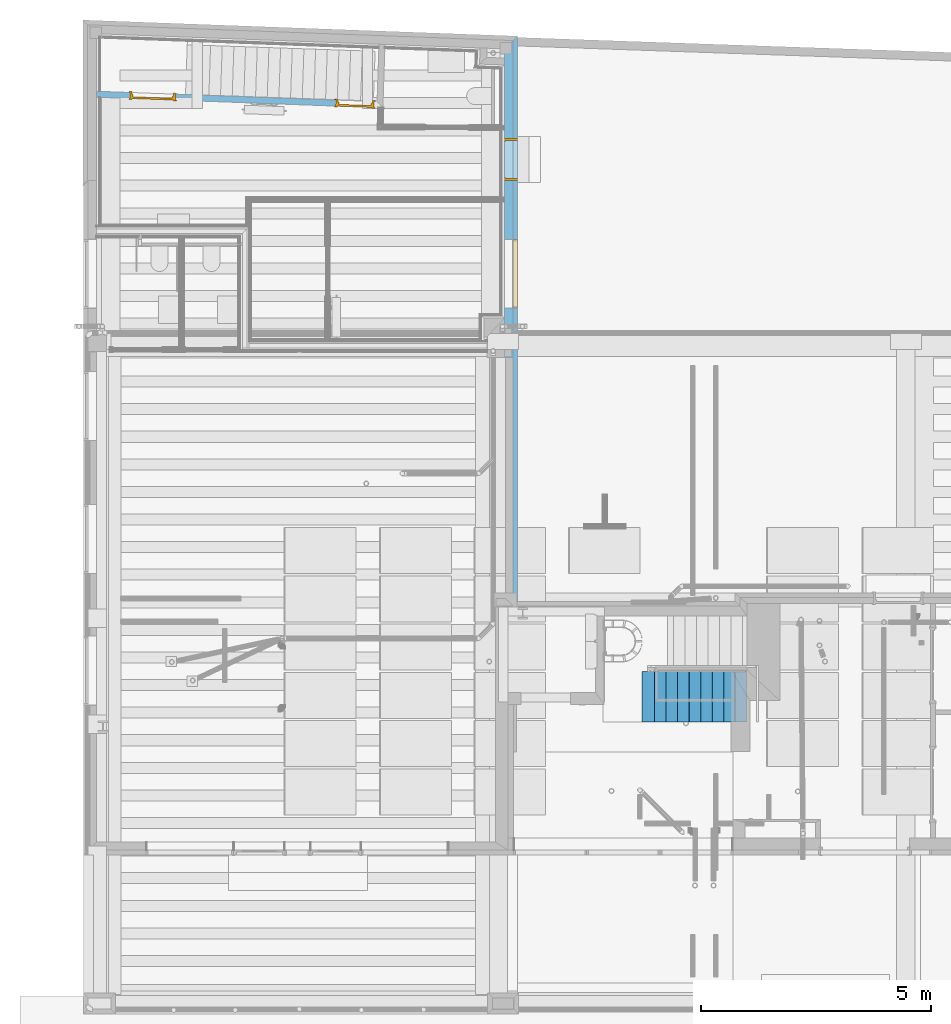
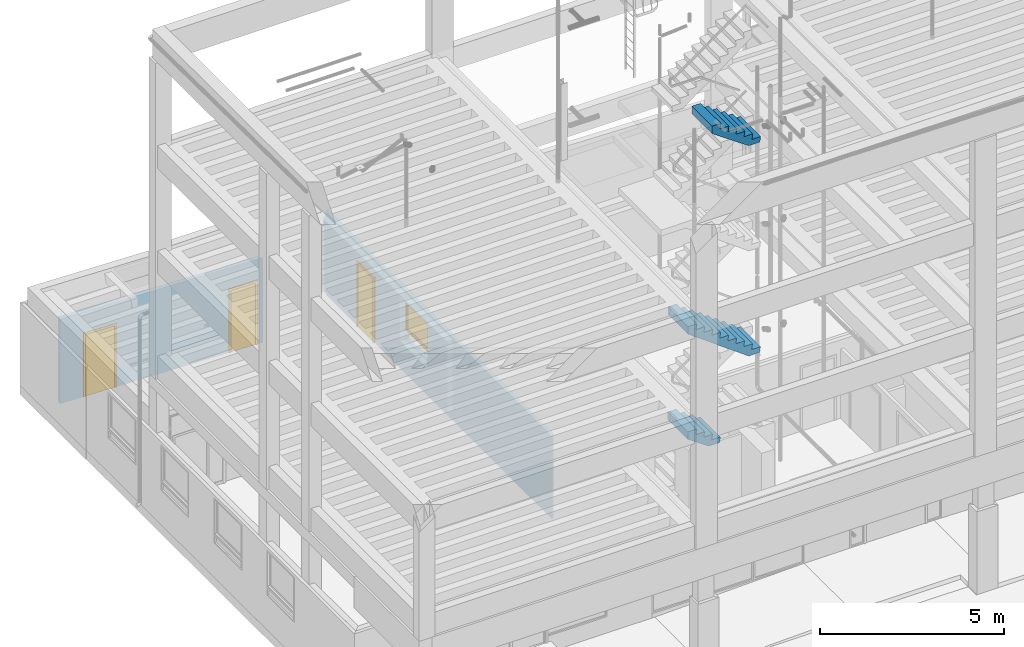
# One storey, part 24 of 108: 3 doors, 3 stairs, 1 window, 6 openings, plus 3 elements that do not belong to this part.
"""IFC2X3 building model written with IfcOpenShell, lengths in metres."""

from ifc_helpers import new_model, entity, si_unit, converted_unit, derived_unit, money_unit, direction, frame, frame_2d, origin_with_axes, place, context, subcontext, project, spatial, polyline, rectangle, outline, extrude, faceted_brep, material, layer, layer_set, layer_usage, type_object, element, fill, save


model = new_model("IFC2X3")

# Units and contexts
model_context = context("Model", 3, precision=1e-05, world=origin_with_axes(), true_north=direction((0.0, 1.0)))
body_context = subcontext(model_context, "Body", "Model", "MODEL_VIEW", scale=1.0)
ifc_project = project(units=[si_unit("LENGTHUNIT", "METRE"), si_unit("AREAUNIT", "SQUARE_METRE"), si_unit("VOLUMEUNIT", "CUBIC_METRE"), si_unit("ABSORBEDDOSEUNIT", "GRAY"), si_unit("AMOUNTOFSUBSTANCEUNIT", "MOLE"), si_unit("DOSEEQUIVALENTUNIT", "SIEVERT"), si_unit("ELECTRICCAPACITANCEUNIT", "FARAD"), si_unit("ELECTRICCHARGEUNIT", "COULOMB"), si_unit("ELECTRICCONDUCTANCEUNIT", "SIEMENS"), si_unit("ELECTRICCURRENTUNIT", "AMPERE"), si_unit("ELECTRICRESISTANCEUNIT", "OHM"), si_unit("ELECTRICVOLTAGEUNIT", "VOLT"), si_unit("ENERGYUNIT", "JOULE"), si_unit("FORCEUNIT", "NEWTON"), si_unit("FREQUENCYUNIT", "HERTZ"), si_unit("ILLUMINANCEUNIT", "LUX"), si_unit("INDUCTANCEUNIT", "HENRY"), si_unit("LUMINOUSFLUXUNIT", "LUMEN"), si_unit("LUMINOUSINTENSITYUNIT", "CANDELA"), si_unit("MAGNETICFLUXDENSITYUNIT", "TESLA"), si_unit("MAGNETICFLUXUNIT", "WEBER"), si_unit("MASSUNIT", "GRAM"), converted_unit("PLANEANGLEUNIT", "degree", entity("IfcReal", 0.0174532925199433), si_unit("PLANEANGLEUNIT", "RADIAN"), dimensions=[0, 0, 0, 0, 0, 0, 0]), si_unit("POWERUNIT", "WATT"), si_unit("PRESSUREUNIT", "PASCAL"), si_unit("RADIOACTIVITYUNIT", "BECQUEREL"), si_unit("SOLIDANGLEUNIT", "STERADIAN"), si_unit("THERMODYNAMICTEMPERATUREUNIT", "KELVIN"), si_unit("TIMEUNIT", "SECOND"), derived_unit("ACCELERATIONUNIT", [(si_unit("LENGTHUNIT", "METRE"), 1), (si_unit("TIMEUNIT", "SECOND"), -2)]), derived_unit("ANGULARVELOCITYUNIT", [(converted_unit("PLANEANGLEUNIT", "degree", entity("IfcReal", 0.0174532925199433), si_unit("PLANEANGLEUNIT", "RADIAN"), dimensions=[0, 0, 0, 0, 0, 0, 0]), 1), (si_unit("TIMEUNIT", "SECOND"), -1)]), derived_unit("CURVATUREUNIT", [(converted_unit("PLANEANGLEUNIT", "degree", entity("IfcReal", 0.0174532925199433), si_unit("PLANEANGLEUNIT", "RADIAN"), dimensions=[0, 0, 0, 0, 0, 0, 0]), 1), (si_unit("LENGTHUNIT", "METRE"), -1)]), derived_unit("DYNAMICVISCOSITYUNIT", [(si_unit("PRESSUREUNIT", "PASCAL"), 1), (si_unit("TIMEUNIT", "SECOND"), 1)]), derived_unit("HEATFLUXDENSITYUNIT", [(si_unit("POWERUNIT", "WATT"), 1), (si_unit("LENGTHUNIT", "METRE"), -2)]), derived_unit("HEATINGVALUEUNIT", [(si_unit("ENERGYUNIT", "JOULE"), 1), (si_unit("MASSUNIT", "GRAM"), -1)]), derived_unit("INTEGERCOUNTRATEUNIT", [(si_unit("TIMEUNIT", "SECOND"), -1)]), derived_unit("IONCONCENTRATIONUNIT", [(si_unit("MASSUNIT", "GRAM"), 1), (si_unit("VOLUMEUNIT", "CUBIC_METRE"), -1)]), derived_unit("ISOTHERMALMOISTURECAPACITYUNIT", [(si_unit("VOLUMEUNIT", "CUBIC_METRE"), 1), (si_unit("MASSUNIT", "GRAM"), -1)]), derived_unit("KINEMATICVISCOSITYUNIT", [(si_unit("AREAUNIT", "SQUARE_METRE"), 1), (si_unit("TIMEUNIT", "SECOND"), -1)]), derived_unit("LINEARFORCEUNIT", [(si_unit("FORCEUNIT", "NEWTON"), 1), (si_unit("LENGTHUNIT", "METRE"), -1)]), derived_unit("LINEARMOMENTUNIT", [(si_unit("FORCEUNIT", "NEWTON"), 1), (si_unit("LENGTHUNIT", "METRE"), -1)]), derived_unit("LINEARSTIFFNESSUNIT", [(si_unit("FORCEUNIT", "NEWTON"), 1), (si_unit("LENGTHUNIT", "METRE"), -1)]), derived_unit("LINEARVELOCITYUNIT", [(si_unit("LENGTHUNIT", "METRE"), 1), (si_unit("TIMEUNIT", "SECOND"), -1)]), derived_unit("LUMINOUSINTENSITYDISTRIBUTIONUNIT", [(si_unit("LUMINOUSINTENSITYUNIT", "CANDELA"), 1), (si_unit("LUMINOUSFLUXUNIT", "LUMEN"), -1)]), derived_unit("MASSDENSITYUNIT", [(si_unit("MASSUNIT", "GRAM"), 1), (si_unit("VOLUMEUNIT", "CUBIC_METRE"), -1)]), derived_unit("MASSFLOWRATEUNIT", [(si_unit("MASSUNIT", "GRAM"), 1), (si_unit("TIMEUNIT", "SECOND"), -1)]), derived_unit("MASSPERLENGTHUNIT", [(si_unit("MASSUNIT", "GRAM"), 1), (si_unit("LENGTHUNIT", "METRE"), -1)]), derived_unit("MODULUSOFELASTICITYUNIT", [(si_unit("FORCEUNIT", "NEWTON"), 1), (si_unit("AREAUNIT", "SQUARE_METRE"), -1)]), derived_unit("MODULUSOFLINEARSUBGRADEREACTIONUNIT", [(si_unit("FORCEUNIT", "NEWTON"), 1), (si_unit("LENGTHUNIT", "METRE"), -2)]), derived_unit("MODULUSOFROTATIONALSUBGRADEREACTIONUNIT", [(si_unit("FORCEUNIT", "NEWTON"), 1), (si_unit("LENGTHUNIT", "METRE"), 1)]), derived_unit("MODULUSOFSUBGRADEREACTIONUNIT", [(si_unit("FORCEUNIT", "NEWTON"), 1), (si_unit("VOLUMEUNIT", "CUBIC_METRE"), -1)]), derived_unit("MOISTUREDIFFUSIVITYUNIT", [(si_unit("VOLUMEUNIT", "CUBIC_METRE"), 1), (si_unit("TIMEUNIT", "SECOND"), -1)]), derived_unit("MOLECULARWEIGHTUNIT", [(si_unit("MASSUNIT", "GRAM"), 1), (si_unit("AMOUNTOFSUBSTANCEUNIT", "MOLE"), -1)]), derived_unit("PLANARFORCEUNIT", [(si_unit("FORCEUNIT", "NEWTON"), 1), (si_unit("LENGTHUNIT", "METRE"), -2)]), derived_unit("ROTATIONALFREQUENCYUNIT", [(si_unit("TIMEUNIT", "SECOND"), -1)]), derived_unit("ROTATIONALMASSUNIT", [(si_unit("MASSUNIT", "GRAM"), 1), (si_unit("LENGTHUNIT", "METRE"), 2)]), derived_unit("ROTATIONALSTIFFNESSUNIT", [(si_unit("FORCEUNIT", "NEWTON"), 1), (si_unit("LENGTHUNIT", "METRE"), 1), (converted_unit("PLANEANGLEUNIT", "degree", entity("IfcReal", 0.0174532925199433), si_unit("PLANEANGLEUNIT", "RADIAN"), dimensions=[0, 0, 0, 0, 0, 0, 0]), -1)]), derived_unit("SECTIONAREAINTEGRALUNIT", [(si_unit("LENGTHUNIT", "METRE"), 5)]), derived_unit("SECTIONMODULUSUNIT", [(si_unit("LENGTHUNIT", "METRE"), 3)]), derived_unit("SHEARMODULUSUNIT", [(si_unit("FORCEUNIT", "NEWTON"), 1), (si_unit("AREAUNIT", "SQUARE_METRE"), -1)]), derived_unit("SOUNDPOWERUNIT", [(si_unit("ENERGYUNIT", "JOULE"), 1), (si_unit("TIMEUNIT", "SECOND"), -1)]), derived_unit("SPECIFICHEATCAPACITYUNIT", [(si_unit("FORCEUNIT", "NEWTON"), 1), (si_unit("MASSUNIT", "GRAM"), -1), (si_unit("THERMODYNAMICTEMPERATUREUNIT", "KELVIN"), -1)]), derived_unit("TEMPERATUREGRADIENTUNIT", [(si_unit("THERMODYNAMICTEMPERATUREUNIT", "KELVIN"), 1), (si_unit("LENGTHUNIT", "METRE"), -1)]), derived_unit("THERMALADMITTANCEUNIT", [(si_unit("POWERUNIT", "WATT"), 1), (si_unit("AREAUNIT", "SQUARE_METRE"), -1), (si_unit("THERMODYNAMICTEMPERATUREUNIT", "KELVIN"), -1)]), derived_unit("THERMALCONDUCTANCEUNIT", [(si_unit("POWERUNIT", "WATT"), 1), (si_unit("LENGTHUNIT", "METRE"), -1), (si_unit("THERMODYNAMICTEMPERATUREUNIT", "KELVIN"), -1)]), derived_unit("THERMALEXPANSIONCOEFFICIENTUNIT", [(si_unit("THERMODYNAMICTEMPERATUREUNIT", "KELVIN"), -1)]), derived_unit("THERMALRESISTANCEUNIT", [(si_unit("AREAUNIT", "SQUARE_METRE"), 1), (si_unit("POWERUNIT", "WATT"), -1)]), derived_unit("THERMALTRANSMITTANCEUNIT", [(si_unit("POWERUNIT", "WATT"), 1), (si_unit("AREAUNIT", "SQUARE_METRE"), -1), (si_unit("THERMODYNAMICTEMPERATUREUNIT", "KELVIN"), -1)]), derived_unit("TORQUEUNIT", [(si_unit("FORCEUNIT", "NEWTON"), 1), (si_unit("LENGTHUNIT", "METRE"), 1)]), derived_unit("VAPORPERMEABILITYUNIT", [(si_unit("MASSUNIT", "GRAM"), 1), (si_unit("TIMEUNIT", "SECOND"), -1)]), derived_unit("VOLUMETRICFLOWRATEUNIT", [(si_unit("VOLUMEUNIT", "CUBIC_METRE"), 1), (si_unit("TIMEUNIT", "SECOND"), -1)]), derived_unit("WARPINGCONSTANTUNIT", [(si_unit("LENGTHUNIT", "METRE"), 6)]), derived_unit("WARPINGMOMENTUNIT", [(si_unit("FORCEUNIT", "NEWTON"), 1), (si_unit("LENGTHUNIT", "METRE"), 2)]), money_unit("GBP")], contexts=[model_context])

# Site, building, storey
site_placement = place(None, origin_with_axes())
site = spatial("IfcSite", under=ifc_project, at=site_placement, Name="Site", CompositionType="ELEMENT")
building_placement = place(site_placement, origin_with_axes())
building = spatial("IfcBuilding", under=site, at=building_placement, Name="Building01", CompositionType="ELEMENT")
storey_placement = place(building_placement, origin_with_axes())
storey = spatial("IfcBuildingStorey", under=building, at=storey_placement, Name="GF", CompositionType="ELEMENT", Elevation=0.0)

# Wall, openings
ifc_material_1 = material(Name="A_BSUK_WallsExternal_Brick")
ifc_layer_1 = layer(ifc_material_1, 0.1, ventilated=False)
ifc_layer_set_1 = layer_set([ifc_layer_1])
ifc_layer_usage_1 = layer_usage(ifc_layer_set_1, "AXIS2", "POSITIVE", 0.0)
wall_type_1 = type_object("IfcWallType", Name="A-Walls-ExternalBrick", PredefinedType="NOTDEFINED")
wall_1_placement = place(storey_placement, frame((9.443038, 8.971523, -0.16), z_axis=(0.0, 0.0, 1.0), x_axis=(3.756e-05, 1.0, 0.0)))
wall_1 = element("IfcWallStandardCase", 1, at=wall_1_placement, inside=storey, type_object=wall_type_1, material=ifc_layer_usage_1, Name="A-Walls-ExternalBrick", ObjectType="A-Walls-ExternalBrick", context=body_context, shape_type="SweptSolid", body=[
    extrude(outline(polyline([(12.194522, 0.1), (-0.1, 0.1), (0.0, 0.0), (12.290885, 0.0), (12.194522, 0.1)])), origin_with_axes(), (0.0, 0.0, 1.0), 2.76),
])
opening_1_placement = place(wall_1_placement, frame((9.152581, 0.0, 0.358), z_axis=(0.0, 0.0, 1.0), x_axis=(1.0, 0.0, 0.0)))
element("IfcOpeningElement", 2, at=opening_1_placement, cuts=wall_1, Name="Opening", ObjectType="Opening", context=body_context, shape_type="Brep", body=[
    faceted_brep([(0.0, 0.1, 0.0), (0.0, 0.1, 2.142), (0.909, 0.1, 2.142), (0.909, 0.1, 0.0), (4e-06, 0.0, 2.142), (4e-06, 0.0, 0.0), (0.909004, 0.0, 2.142), (0.909004, 0.0, 0.0)], [[[0, 1, 2, 3]], [[4, 1, 0, 5]], [[6, 2, 1, 4]], [[7, 3, 2, 6]], [[5, 0, 3, 7]], [[4, 5, 7, 6]]]),
])
opening_2_placement = place(wall_1_placement, frame((6.373286, 0.0, 1.158), z_axis=(0.0, 0.0, 1.0), x_axis=(1.0, 0.0, 0.0)))
opening_2 = element("IfcOpeningElement", 3, at=opening_2_placement, cuts=wall_1, Name="Opening", ObjectType="Opening", context=body_context, shape_type="Brep", body=[
    faceted_brep([(0.0, 0.1, 1.5), (1.5, 0.1, 1.5), (1.5, 0.1, 0.0), (0.0, 0.1, 0.0), (1.500004, 0.0, 1.5), (4e-06, 0.0, 1.5), (1.500004, 0.0, 0.0), (4e-06, 0.0, 0.0)], [[[0, 1, 2, 3]], [[4, 1, 0, 5]], [[6, 2, 1, 4]], [[5, 0, 3, 7]], [[4, 5, 7, 6]], [[7, 3, 2, 6]]]),
])

# Space
space_1_placement = place(storey_placement, frame((12.311434, 15.867846, 0.0), z_axis=(0.0, 0.0, 1.0), x_axis=(0.0, 1.0, 0.0)))
space_1 = spatial("IfcSpace", under=storey, at=space_1_placement, Name="1", CompositionType="ELEMENT", InteriorOrExteriorSpace="NOTDEFINED")

# Window
ifc_material_2 = material(Name="A_BSUK_Windows")
window_style = type_object("IfcWindowStyle", Name="A-Awning", ConstructionType="NOTDEFINED", OperationType="USERDEFINED", ParameterTakesPrecedence=False, Sizeable=False)
window_placement = place(opening_2_placement, frame((-1e-06, 0.125344, 0.3), z_axis=(0.0, 0.0, 1.0), x_axis=(-1.0, -3.756e-05, 0.0)))
window = element("IfcWindow", 4, at=window_placement, inside=space_1, type_object=window_style, material=ifc_material_2, Name="0.08", ObjectType="A-Awning", OverallHeight=1.20000000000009, OverallWidth=1.5000000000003, context=body_context, shape_type="Brep", body=[
    faceted_brep([(-1.458, 0.0254, 0.042), (-0.042, 0.0254, 0.042), (-0.042, 0.1254, 0.042), (-1.458, 0.1254, 0.042), (-1.458, 0.0254, 1.158), (-1.458, 0.1254, 1.158), (-0.042, 0.0254, 1.158), (-0.042, 0.1254, 1.158), (0.0, 0.0254, 0.0), (0.0, 0.0254, 1.2), (-1.5, 0.0254, 1.2), (-1.5, 0.0254, 0.0), (0.0, 0.1254, 1.2), (-1.5, 0.1254, 1.2), (-1.5, 0.1254, 0.0), (0.0, 0.1254, 0.0)], [[[0, 1, 2, 3]], [[4, 0, 3, 5]], [[6, 4, 5, 7]], [[8, 9, 10, 11], [4, 6, 1, 0]], [[1, 6, 7, 2]], [[12, 13, 10, 9]], [[14, 15, 8, 11]], [[13, 14, 11, 10]], [[13, 12, 15, 14], [2, 7, 5, 3]], [[15, 12, 9, 8]]]),
    faceted_brep([(-1.4072, 0.0354, 0.0928), (-0.0928, 0.0354, 0.0928), (-0.0928, 0.0704, 0.0928), (-1.4072, 0.0704, 0.0928), (-1.4072, 0.0354, 1.1072), (-1.4072, 0.0704, 1.1072), (-0.0928, 0.0354, 1.1072), (-0.0928, 0.0704, 1.1072), (-1.458, 0.0704, 1.158), (-0.042, 0.0704, 1.158), (-0.042, 0.0704, 0.042), (-1.458, 0.0704, 0.042), (-1.458, 0.0354, 1.158), (-0.042, 0.0354, 1.158), (-0.042, 0.0354, 0.042), (-1.458, 0.0354, 0.042)], [[[0, 1, 2, 3]], [[4, 0, 3, 5]], [[6, 4, 5, 7]], [[8, 9, 10, 11], [2, 7, 5, 3]], [[9, 8, 12, 13]], [[10, 9, 13, 14]], [[11, 10, 14, 15]], [[8, 11, 15, 12]], [[14, 13, 12, 15], [4, 6, 1, 0]], [[1, 6, 7, 2]]]),
    faceted_brep([(-0.0928, 0.049725, 0.0928), (-0.0928, 0.056075, 0.0928), (-0.0928, 0.056075, 1.1072), (-0.0928, 0.049725, 1.1072), (-1.4072, 0.049725, 1.1072), (-1.4072, 0.056075, 1.1072), (-1.4072, 0.056075, 0.0928), (-1.4072, 0.049725, 0.0928)], [[[0, 1, 2, 3]], [[4, 5, 6, 7]], [[3, 2, 5, 4]], [[3, 4, 7, 0]], [[7, 6, 1, 0]], [[1, 6, 5, 2]]]),
])

fill(opening_2, window)

# Wall, openings
ifc_material_3 = material(Name="A_BSUK_WallsExternal_Block")
ifc_layer_2 = layer(ifc_material_3, 0.189, ventilated=False)
ifc_layer_set_2 = layer_set([ifc_layer_2])
ifc_layer_usage_2 = layer_usage(ifc_layer_set_2, "AXIS2", "POSITIVE", 0.0)
wall_type_2 = type_object("IfcWallType", Name="A-Walls-ExternalBlock", PredefinedType="NOTDEFINED")
wall_2_placement = place(storey_placement, frame((9.343265, 14.271539, 0.148), z_axis=(0.0, 0.0, 1.0), x_axis=(0.0, 1.0, 0.0)))
wall_2 = element("IfcWallStandardCase", 5, at=wall_2_placement, inside=storey, type_object=wall_type_2, material=ifc_layer_usage_2, Name="A-Walls-ExternalBlock", ObjectType="A-Walls-ExternalBlock", context=body_context, shape_type="SweptSolid", body=[
    extrude(outline(polyline([(6.714401, 0.189), (0.0, 0.189), (0.0, 0.0), (6.894519, 0.0), (6.714401, 0.189)])), origin_with_axes(), (0.0, 0.0, 1.0), 2.387),
])
opening_3_placement = place(wall_2_placement, frame((3.852568, 0.0, 0.05), z_axis=(0.0, 0.0, 1.0), x_axis=(1.0, 0.0, 0.0)))
opening_3 = element("IfcOpeningElement", 6, at=opening_3_placement, cuts=wall_2, Name="Opening", ObjectType="Opening", context=body_context, shape_type="SweptSolid", body=[
    extrude(rectangle(XDim=0.909, YDim=2.142, at=frame_2d((-0.4545, 1.071), x_axis=(-1.0, 0.0))), frame((0.0, 0.0, 0.0), z_axis=(0.0, 1.0, 0.0), x_axis=(-1.0, 0.0, 0.0)), (0.0, 0.0, 1.0), 0.189),
])
opening_4_placement = place(wall_2_placement, frame((1.073273, 0.0, 0.85), z_axis=(0.0, 0.0, 1.0), x_axis=(1.0, 0.0, 0.0)))
element("IfcOpeningElement", 7, at=opening_4_placement, cuts=wall_2, Name="Opening", ObjectType="Opening", context=body_context, shape_type="SweptSolid", body=[
    extrude(rectangle(XDim=1.5, YDim=1.5, at=frame_2d((-0.75, 0.75), x_axis=(1.0, 0.0))), frame((0.0, 0.0, 0.0), z_axis=(0.0, 1.0, 0.0), x_axis=(-1.0, 0.0, 0.0)), (0.0, 0.0, 1.0), 0.189),
])

# Space
space_2_placement = place(storey_placement, frame((8.552822, 20.936203, 0.217025), z_axis=(0.0, 0.0, 1.0), x_axis=(-0.99931258, 0.03707243, 0.0)))
space_2 = spatial("IfcSpace", under=storey, at=space_2_placement, Name="01", CompositionType="ELEMENT", InteriorOrExteriorSpace="NOTDEFINED")

# Door
ifc_material_4 = material(Name="A_BSUK_Doors")
door_style_1 = type_object("IfcDoorStyle", Name="A-Doors-SingleFlush", ConstructionType="USERDEFINED", OperationType="SINGLE_SWING_LEFT", ParameterTakesPrecedence=False, Sizeable=False)
door_1_placement = place(opening_3_placement, frame((0.042, 0.259849, 0.0), z_axis=(0.0, 0.0, 1.0), x_axis=(1.0, 0.0, 0.0)))
door_1 = element("IfcDoor", 8, at=door_1_placement, inside=space_2, type_object=door_style_1, material=ifc_material_4, Name="0.08", ObjectType="A-Doors-SingleFlush", OverallHeight=2.142, OverallWidth=0.909000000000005, context=body_context, shape_type="Brep", body=[
    faceted_brep([(0.0, -0.379, 2.1), (0.825, -0.379, 2.1), (0.825, -0.379, 0.0), (0.894, -0.379, 0.0), (0.894, -0.379, 2.169), (-0.069, -0.379, 2.169), (-0.069, -0.379, 0.0), (0.0, -0.379, 0.0), (0.894, -0.36, 2.169), (0.894, -0.36, 0.0), (-0.069, -0.36, 0.0), (-0.069, -0.36, 2.169), (-0.042, -0.36, 0.0), (-0.042, 0.0, 0.0), (-0.069, 0.0, 0.0), (-0.069, 0.019, 0.0), (0.0, 0.019, 0.0), (0.0, 0.019, 2.1), (0.825, 0.019, 2.1), (-0.069, 0.019, 2.169), (0.894, 0.019, 2.169), (0.894, 0.019, 0.0), (0.825, 0.019, 0.0), (-0.069, 0.0, 2.169), (-0.042, 0.0, 2.142), (-0.042, -0.36, 2.142), (0.867, 0.0, 2.142), (0.867, -0.36, 2.142), (0.867, -0.36, 0.0), (0.867, 0.0, 0.0), (0.894, 0.0, 0.0), (0.894, 0.0, 2.169)], [[[0, 1, 2, 3, 4, 5, 6, 7]], [[8, 4, 3, 9]], [[10, 6, 5, 11]], [[11, 5, 4, 8]], [[7, 6, 10, 12, 13, 14, 15, 16]], [[7, 16, 17, 0]], [[0, 17, 18, 1]], [[17, 16, 15, 19, 20, 21, 22, 18]], [[1, 18, 22, 2]], [[14, 23, 19, 15]], [[24, 13, 12, 25]], [[26, 24, 25, 27]], [[11, 8, 9, 28, 27, 25, 12, 10]], [[27, 28, 29, 26]], [[26, 29, 30, 31, 23, 14, 13, 24]], [[22, 21, 30, 29, 28, 9, 3, 2]], [[30, 21, 20, 31]], [[31, 20, 19, 23]]]),
    faceted_brep([(0.825, -0.09, 0.0), (0.825, -0.04, 0.0), (0.825, -0.04, 2.1), (0.825, -0.09, 2.1), (0.025, -0.09, 2.075), (0.8, -0.09, 2.075), (0.8, -0.09, 0.0), (0.0, -0.09, 2.1), (0.0, -0.09, 0.0), (0.025, -0.09, 0.0), (0.0, -0.04, 0.0), (0.025, -0.04, 0.0), (0.0, -0.04, 2.1), (0.025, -0.04, 2.075), (0.8, -0.04, 0.0), (0.8, -0.04, 2.075)], [[[0, 1, 2, 3]], [[4, 5, 6, 0, 3, 7, 8, 9]], [[9, 8, 10, 11]], [[3, 2, 12, 7]], [[7, 12, 10, 8]], [[13, 11, 10, 12, 2, 1, 14, 15]], [[5, 15, 14, 6]], [[14, 1, 0, 6]], [[9, 11, 13, 4]], [[4, 13, 15, 5]]]),
    faceted_brep([(0.0, -0.04, 2.1), (0.0, 0.0, 2.1), (0.0, 0.0, 0.0), (0.0, -0.04, 0.0), (0.825, -0.04, 0.0), (0.825, 0.0, 0.0), (0.825, 0.0, 2.1), (0.825, -0.04, 2.1)], [[[0, 1, 2, 3]], [[4, 5, 6, 7]], [[3, 2, 5, 4]], [[3, 4, 7, 0]], [[7, 6, 1, 0]], [[1, 6, 5, 2]]]),
])

fill(opening_3, door_1)

# Wall, openings, doors
ifc_material_5 = material(Name="A_BSUK_WallsInternal_Block")
ifc_layer_3 = layer(ifc_material_5, 0.131, ventilated=False)
ifc_layer_set_3 = layer_set([ifc_layer_3])
ifc_layer_usage_3 = layer_usage(ifc_layer_set_3, "AXIS2", "POSITIVE", 0.0)
wall_type_3 = type_object("IfcWallType", Name="A-Walls-InternalBlock", PredefinedType="NOTDEFINED")
wall_3_placement = place(storey_placement, frame((6.383485, 19.838621, 0.148), z_axis=(0.0, 0.0, 1.0), x_axis=(-0.99931641, 0.03696906, 0.0)))
wall_3 = element("IfcWallStandardCase", 9, at=wall_3_placement, inside=storey, type_object=wall_type_3, material=ifc_layer_usage_3, Name="A-Walls-InternalBlock", ObjectType="A-Walls-InternalBlock", context=body_context, shape_type="SweptSolid", body=[
    extrude(outline(polyline([(6.101916, 0.131), (-0.131696, 0.131), (0.0, 0.0), (6.106763, 0.0), (6.101916, 0.131)])), origin_with_axes(), (0.0, 0.0, 1.0), 2.812),
])
opening_5_placement = place(wall_3_placement, frame((4.38669, 0.0, 0.0), z_axis=(0.0, 0.0, 1.0), x_axis=(1.0, 0.0, 0.0)))
opening_5 = element("IfcOpeningElement", 10, at=opening_5_placement, cuts=wall_3, Name="Opening", ObjectType="Opening", context=body_context, shape_type="SweptSolid", body=[
    extrude(rectangle(XDim=2.1, YDim=0.984, at=frame_2d((-0.492, 1.05), x_axis=(0.0, -1.0))), frame((0.0, 0.0, 0.0), z_axis=(0.0, 1.0, 0.0), x_axis=(-1.0, 0.0, 0.0)), (0.0, 0.0, 1.0), 0.131),
])
opening_6_placement = place(wall_3_placement, frame((0.061318, 0.0, 0.0), z_axis=(0.0, 0.0, 1.0), x_axis=(1.0, 0.0, 0.0)))
opening_6 = element("IfcOpeningElement", 11, at=opening_6_placement, cuts=wall_3, Name="Opening", ObjectType="Opening", context=body_context, shape_type="SweptSolid", body=[
    extrude(rectangle(XDim=2.1, YDim=0.834, at=frame_2d((-0.417, 1.05), x_axis=(0.0, -1.0))), frame((0.0, 0.0, 0.0), z_axis=(0.0, 1.0, 0.0), x_axis=(-1.0, 0.0, 0.0)), (0.0, 0.0, 1.0), 0.131),
])
door_style_2 = type_object("IfcDoorStyle", Name="A-Doors-SingleFlush", ConstructionType="USERDEFINED", OperationType="SINGLE_SWING_RIGHT", ParameterTakesPrecedence=False, Sizeable=False)
door_2_placement = place(opening_5_placement, frame((0.042, 0.131045, 0.0), z_axis=(0.0, 0.0, 1.0), x_axis=(1.0, 0.0, 0.0)))
door_2 = element("IfcDoor", 12, at=door_2_placement, inside=space_2, type_object=door_style_2, material=ifc_material_4, Name="0.09", ObjectType="A-Doors-SingleFlush", OverallHeight=2.1, OverallWidth=0.984000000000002, context=body_context, shape_type="Brep", body=[
    faceted_brep([(0.9, -0.15, 0.0), (0.969, -0.15, 0.0), (0.969, -0.15, 2.127), (-0.069, -0.15, 2.127), (-0.069, -0.15, 0.0), (0.0, -0.15, 0.0), (0.0, -0.15, 2.058), (0.9, -0.15, 2.058), (-0.069, -0.131, 0.0), (-0.069, -0.131, 2.127), (0.969, -0.131, 2.127), (0.969, -0.131, 0.0), (0.9, 0.019, 0.0), (0.969, 0.019, 0.0), (0.969, 0.0, 0.0), (0.942, 0.0, 0.0), (0.942, -0.131, 0.0), (0.9, 0.019, 2.058), (0.0, 0.019, 2.058), (0.0, 0.019, 0.0), (-0.069, 0.019, 0.0), (-0.069, 0.019, 2.127), (0.969, 0.019, 2.127), (0.969, 0.0, 2.127), (0.942, -0.131, 2.1), (0.942, 0.0, 2.1), (-0.042, -0.131, 2.1), (-0.042, 0.0, 2.1), (-0.042, -0.131, 0.0), (-0.042, 0.0, 0.0), (-0.069, 0.0, 2.127), (-0.069, 0.0, 0.0)], [[[0, 1, 2, 3, 4, 5, 6, 7]], [[8, 4, 3, 9]], [[10, 2, 1, 11]], [[9, 3, 2, 10]], [[12, 13, 14, 15, 16, 11, 1, 0]], [[7, 17, 12, 0]], [[6, 18, 17, 7]], [[18, 19, 20, 21, 22, 13, 12, 17]], [[5, 19, 18, 6]], [[13, 22, 23, 14]], [[24, 16, 15, 25]], [[26, 24, 25, 27]], [[11, 16, 24, 26, 28, 8, 9, 10]], [[27, 29, 28, 26]], [[25, 15, 14, 23, 30, 31, 29, 27]], [[5, 4, 8, 28, 29, 31, 20, 19]], [[30, 21, 20, 31]], [[23, 22, 21, 30]]]),
    faceted_brep([(0.0, -0.09, 2.058), (0.0, -0.04, 2.058), (0.0, -0.04, 0.0), (0.0, -0.09, 0.0), (0.875, -0.09, 0.0), (0.9, -0.09, 0.0), (0.9, -0.09, 2.058), (0.025, -0.09, 0.0), (0.025, -0.09, 2.033), (0.875, -0.09, 2.033), (0.875, -0.04, 0.0), (0.9, -0.04, 0.0), (0.9, -0.04, 2.058), (0.025, -0.04, 2.033), (0.025, -0.04, 0.0), (0.875, -0.04, 2.033)], [[[0, 1, 2, 3]], [[4, 5, 6, 0, 3, 7, 8, 9]], [[10, 11, 5, 4]], [[6, 12, 1, 0]], [[5, 11, 12, 6]], [[13, 14, 2, 1, 12, 11, 10, 15]], [[7, 14, 13, 8]], [[7, 3, 2, 14]], [[9, 15, 10, 4]], [[8, 13, 15, 9]]]),
    faceted_brep([(0.9, -0.04, 0.0), (0.9, 0.0, 0.0), (0.9, 0.0, 2.058), (0.9, -0.04, 2.058), (0.0, -0.04, 2.058), (0.0, 0.0, 2.058), (0.0, 0.0, 0.0), (0.0, -0.04, 0.0)], [[[0, 1, 2, 3]], [[4, 5, 6, 7]], [[7, 6, 1, 0]], [[3, 4, 7, 0]], [[3, 2, 5, 4]], [[1, 6, 5, 2]]]),
])
fill(opening_5, door_2)
door_3_placement = place(opening_6_placement, frame((0.042, 0.131045, 0.0), z_axis=(0.0, 0.0, 1.0), x_axis=(1.0, 0.0, 0.0)))
door_3 = element("IfcDoor", 13, at=door_3_placement, inside=space_2, type_object=door_style_2, material=ifc_material_4, Name="0.10", ObjectType="A-Doors-SingleFlush", OverallHeight=2.1, OverallWidth=0.834000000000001, context=body_context, shape_type="Brep", body=[
    faceted_brep([(0.75, -0.15, 0.0), (0.819, -0.15, 0.0), (0.819, -0.15, 2.127), (-0.069, -0.15, 2.127), (-0.069, -0.15, 0.0), (0.0, -0.15, 0.0), (0.0, -0.15, 2.058), (0.75, -0.15, 2.058), (-0.069, -0.131, 0.0), (-0.069, -0.131, 2.127), (0.819, -0.131, 2.127), (0.819, -0.131, 0.0), (0.75, 0.019, 0.0), (0.819, 0.019, 0.0), (0.819, 0.0, 0.0), (0.792, 0.0, 0.0), (0.792, -0.131, 0.0), (0.75, 0.019, 2.058), (0.0, 0.019, 2.058), (0.0, 0.019, 0.0), (-0.069, 0.019, 0.0), (-0.069, 0.019, 2.127), (0.819, 0.019, 2.127), (0.819, 0.0, 2.127), (0.792, -0.131, 2.1), (0.792, 0.0, 2.1), (-0.042, -0.131, 2.1), (-0.042, 0.0, 2.1), (-0.042, -0.131, 0.0), (-0.042, 0.0, 0.0), (-0.069, 0.0, 2.127), (-0.069, 0.0, 0.0)], [[[0, 1, 2, 3, 4, 5, 6, 7]], [[8, 4, 3, 9]], [[10, 2, 1, 11]], [[9, 3, 2, 10]], [[12, 13, 14, 15, 16, 11, 1, 0]], [[7, 17, 12, 0]], [[6, 18, 17, 7]], [[18, 19, 20, 21, 22, 13, 12, 17]], [[5, 19, 18, 6]], [[13, 22, 23, 14]], [[24, 16, 15, 25]], [[26, 24, 25, 27]], [[11, 16, 24, 26, 28, 8, 9, 10]], [[27, 29, 28, 26]], [[25, 15, 14, 23, 30, 31, 29, 27]], [[5, 4, 8, 28, 29, 31, 20, 19]], [[30, 21, 20, 31]], [[23, 22, 21, 30]]]),
    faceted_brep([(0.0, -0.09, 2.058), (0.0, -0.04, 2.058), (0.0, -0.04, 0.0), (0.0, -0.09, 0.0), (0.725, -0.09, 0.0), (0.75, -0.09, 0.0), (0.75, -0.09, 2.058), (0.025, -0.09, 0.0), (0.025, -0.09, 2.033), (0.725, -0.09, 2.033), (0.725, -0.04, 0.0), (0.75, -0.04, 0.0), (0.75, -0.04, 2.058), (0.025, -0.04, 2.033), (0.025, -0.04, 0.0), (0.725, -0.04, 2.033)], [[[0, 1, 2, 3]], [[4, 5, 6, 0, 3, 7, 8, 9]], [[10, 11, 5, 4]], [[6, 12, 1, 0]], [[5, 11, 12, 6]], [[13, 14, 2, 1, 12, 11, 10, 15]], [[7, 14, 13, 8]], [[7, 3, 2, 14]], [[9, 15, 10, 4]], [[8, 13, 15, 9]]]),
    faceted_brep([(0.75, -0.04, 0.0), (0.75, 0.0, 0.0), (0.75, 0.0, 2.058), (0.75, -0.04, 2.058), (0.0, -0.04, 2.058), (0.0, 0.0, 2.058), (0.0, 0.0, 0.0), (0.0, -0.04, 0.0)], [[[0, 1, 2, 3]], [[4, 5, 6, 7]], [[7, 6, 1, 0]], [[3, 4, 7, 0]], [[3, 2, 5, 4]], [[1, 6, 5, 2]]]),
])
fill(opening_6, door_3)

# Stairs
ifc_material_6 = material(Name="S_BSUK_Stairs")
stair_1_placement = place(storey_placement, frame((14.405859, 6.35, 12.13), z_axis=(0.0, 0.0, 1.0), x_axis=(1.0, 0.0, 0.0)))
element("IfcStair", 14, at=stair_1_placement, inside=storey, material=ifc_material_6, Name="S-Stairs-ConcreteRC", ObjectType="S-Stairs-ConcreteRC", ShapeType="NOTDEFINED", context=body_context, shape_type="Brep", body=[
    faceted_brep([(0.0, 1.1, 0.0), (-0.348759, 1.1, 0.0), (-1.5, 1.1, 0.805869), (-1.5, 1.1, 1.05), (-1.225, 1.1, 1.05), (-1.25, 1.1, 0.875), (-0.975, 1.1, 0.875), (-1.0, 1.1, 0.7), (-0.725, 1.1, 0.7), (-0.75, 1.1, 0.525), (-0.475, 1.1, 0.525), (-0.5, 1.1, 0.35), (-0.225, 1.1, 0.35), (-0.25, 1.1, 0.175), (0.025, 1.1, 0.175), (0.0, 0.0, 0.0), (-0.348759, 0.0, 0.0), (-1.5, 0.0, 0.805869), (-1.5, 0.0, 1.05), (-1.225, 0.0, 1.05), (-1.25, 0.0, 0.875), (-0.975, 0.0, 0.875), (-1.0, 0.0, 0.7), (-0.725, 0.0, 0.7), (-0.75, 0.0, 0.525), (-0.475, 0.0, 0.525), (-0.5, 0.0, 0.35), (-0.225, 0.0, 0.35), (-0.25, 0.0, 0.175), (0.025, 0.0, 0.175)], [[[0, 1, 2, 3, 4, 5, 6, 7, 8, 9, 10, 11, 12, 13, 14]], [[15, 16, 1, 0]], [[16, 17, 2, 1]], [[17, 18, 3, 2]], [[18, 19, 4, 3]], [[19, 20, 5, 4]], [[20, 21, 6, 5]], [[21, 22, 7, 6]], [[22, 23, 8, 7]], [[23, 24, 9, 8]], [[24, 25, 10, 9]], [[25, 26, 11, 10]], [[26, 27, 12, 11]], [[27, 28, 13, 12]], [[28, 29, 14, 13]], [[29, 15, 0, 14]], [[15, 29, 28, 27, 26, 25, 24, 23, 22, 21, 20, 19, 18, 17, 16]]]),
])
stair_2_placement = place(storey_placement, frame((14.397098, 6.35, 5.15), z_axis=(0.0, 0.0, 1.0), x_axis=(0.99999987, 0.00051581, 0.0)))
element("IfcStair", 15, at=stair_2_placement, inside=storey, material=ifc_material_6, Name="S-Stairs-ConcreteRC", ObjectType="S-Stairs-ConcreteRC", ShapeType="NOTDEFINED", context=body_context, shape_type="Brep", body=[
    faceted_brep([(-2.249432, 1.10116, 1.39251), (-2.249432, 1.10116, 1.64), (-1.974432, 1.101019, 1.64), (-1.999432, 1.101031, 1.457778), (-1.724432, 1.10089, 1.457778), (-1.749432, 1.100903, 1.275556), (-1.474432, 1.100761, 1.275556), (-1.499432, 1.100774, 1.093333), (-1.224432, 1.100632, 1.093333), (-1.249432, 1.100645, 0.911111), (-0.974432, 1.100503, 0.911111), (-0.999432, 1.100516, 0.728889), (-0.724433, 1.100374, 0.728889), (-0.749433, 1.100387, 0.546667), (-0.474433, 1.100245, 0.546667), (-0.499433, 1.100258, 0.364444), (-0.224433, 1.100116, 0.364444), (-0.249433, 1.100129, 0.182222), (0.025567, 1.099987, 0.182222), (0.000567, 1.1, 0.0), (-0.338976, 1.100175, 0.0), (-2.25, 0.001161, 1.39251), (-2.25, 0.001161, 1.64), (-1.975, 0.001019, 1.64), (-2.0, 0.001032, 1.457778), (-1.725, 0.00089, 1.457778), (-1.75, 0.000903, 1.275556), (-1.475, 0.000761, 1.275556), (-1.5, 0.000774, 1.093333), (-1.225, 0.000632, 1.093333), (-1.25, 0.000645, 0.911111), (-0.975, 0.000503, 0.911111), (-1.0, 0.000516, 0.728889), (-0.725, 0.000374, 0.728889), (-0.75, 0.000387, 0.546667), (-0.475, 0.000245, 0.546667), (-0.5, 0.000258, 0.364444), (-0.225, 0.000116, 0.364444), (-0.25, 0.000129, 0.182222), (0.025, -1.3e-05, 0.182222), (0.0, 0.0, 0.0), (-0.339544, 0.000175, 0.0)], [[[0, 1, 2, 3, 4, 5, 6, 7, 8, 9, 10, 11, 12, 13, 14, 15, 16, 17, 18, 19, 20]], [[21, 22, 1, 0]], [[22, 23, 2, 1]], [[23, 24, 3, 2]], [[24, 25, 4, 3]], [[25, 26, 5, 4]], [[26, 27, 6, 5]], [[27, 28, 7, 6]], [[28, 29, 8, 7]], [[29, 30, 9, 8]], [[30, 31, 10, 9]], [[31, 32, 11, 10]], [[32, 33, 12, 11]], [[33, 34, 13, 12]], [[34, 35, 14, 13]], [[35, 36, 15, 14]], [[36, 37, 16, 15]], [[37, 38, 17, 16]], [[38, 39, 18, 17]], [[39, 40, 19, 18]], [[40, 41, 20, 19]], [[41, 21, 0, 20]], [[21, 41, 40, 39, 38, 37, 36, 35, 34, 33, 32, 31, 30, 29, 28, 27, 26, 25, 24, 23, 22]]]),
])
stair_3_placement = place(storey_placement, frame((13.141481, 6.35, 2.6), z_axis=(0.0, 0.0, 1.0), x_axis=(1.0, 0.0, 0.0)))
element("IfcStair", 16, at=stair_3_placement, inside=storey, material=ifc_material_6, Name="S-Stairs-ConcreteRC", ObjectType="S-Stairs-ConcreteRC", ShapeType="NOTDEFINED", context=body_context, shape_type="Brep", body=[
    faceted_brep([(0.0, 1.1, 0.0), (-0.348759, 1.1, 0.0), (-1.0, 1.1, 0.455869), (-1.0, 1.1, 0.7), (-0.725, 1.1, 0.7), (-0.75, 1.1, 0.525), (-0.475, 1.1, 0.525), (-0.5, 1.1, 0.35), (-0.225, 1.1, 0.35), (-0.25, 1.1, 0.175), (0.025, 1.1, 0.175), (0.0, 0.0, 0.0), (-0.348759, 0.0, 0.0), (-1.0, 0.0, 0.455869), (-1.0, 0.0, 0.7), (-0.725, 0.0, 0.7), (-0.75, 0.0, 0.525), (-0.475, 0.0, 0.525), (-0.5, 0.0, 0.35), (-0.225, 0.0, 0.35), (-0.25, 0.0, 0.175), (0.025, 0.0, 0.175)], [[[0, 1, 2, 3, 4, 5, 6, 7, 8, 9, 10]], [[11, 12, 1, 0]], [[12, 13, 2, 1]], [[13, 14, 3, 2]], [[14, 15, 4, 3]], [[15, 16, 5, 4]], [[16, 17, 6, 5]], [[17, 18, 7, 6]], [[18, 19, 8, 7]], [[19, 20, 9, 8]], [[20, 21, 10, 9]], [[21, 11, 0, 10]], [[11, 21, 20, 19, 18, 17, 16, 15, 14, 13, 12]]]),
])

save(model, "model.ifc")
